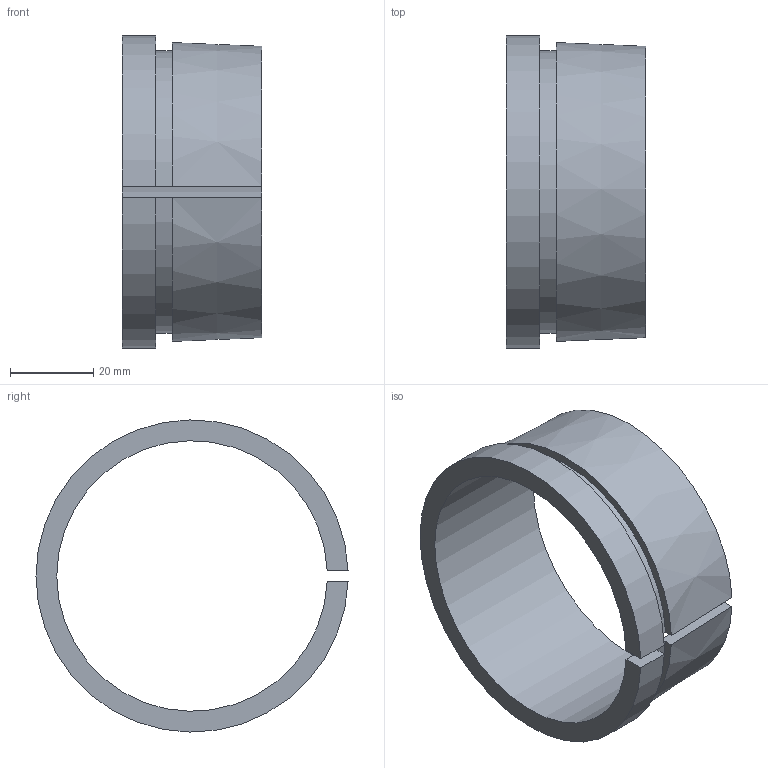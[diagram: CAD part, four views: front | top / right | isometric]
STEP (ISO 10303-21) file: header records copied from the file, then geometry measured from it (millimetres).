
FILE_DESCRIPTION(/* description */ (''),/* implementation_level */ '2;1');
FILE_NAME(/* name */ 'AHX214.stp',/* time_stamp */ '2024-07-24T13:29:31+02:00',/* author */ ('OUPIONTEKM'),/* organization */ (''),/* preprocessor_version */ 'ST-DEVELOPER v20',/* originating_system */ 'Autodesk Inventor 2025',/* authorisation */ '');
FILE_SCHEMA (('AUTOMOTIVE_DESIGN { 1 0 10303 214 3 1 1 }'));
Length unit declared in the file: millimetre
Products named in the file (1): AH214
Bounding box: 33.5 x 74.98 x 74.99 mm (x, y, z)
Volume: 23204.4 mm3; surface area: 17251.4 mm2
Topology: 1 solids, 1 shells, 10 faces, 24 edges, 16 vertices
Faces by surface type: plane 6, cylinder 3, cone 1
Entity records: 339 total; most frequent: DIRECTION 54, CARTESIAN_POINT 51, ORIENTED_EDGE 48, EDGE_CURVE 24, AXIS2_PLACEMENT_3D 19, LINE 16, VECTOR 16, VERTEX_POINT 16
